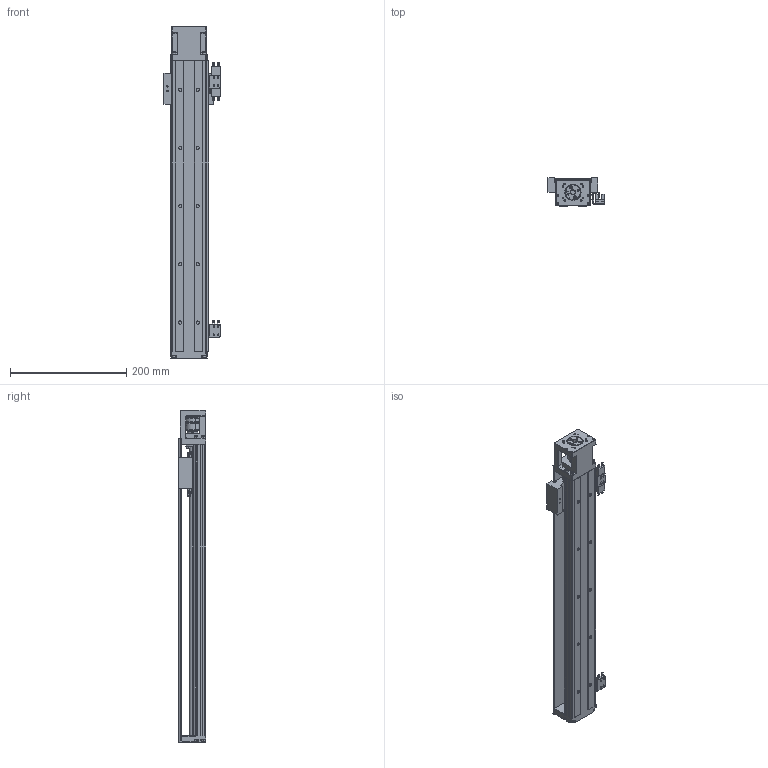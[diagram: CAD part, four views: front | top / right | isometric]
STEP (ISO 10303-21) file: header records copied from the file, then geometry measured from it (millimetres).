
FILE_DESCRIPTION (( 'STEP AP214' ), '1' );
FILE_NAME ('SFKK60-500A1-F0C.STEP', '2023-02-17T01:41:33', ( '微软用户' ), ( '微软中国' ), 'SwSTEP 2.0', 'SolidWorks 2018', '' );
FILE_SCHEMA (( 'AUTOMOTIVE_DESIGN' ));
Length unit declared in the file: millimetre
Products named in the file (12): SFD26x33-8-8_8; SFKK60-500A1-F0C; SFKK60-A1-C; 带盖挡光片：KK-60-S2-D1; 极限轨道与开关固定座组合_500; SFKK-60-CU_500; SX674嫖萇羲壽; hexagon socket countersunk head screws gb_GB_FASTENER_SCREWS_HSCHS M3X8-N; SFKK60-LR 憤癹寢耋_500; 开关固定座：KK-674S2-F; SFKK60-F0_500; 蚐郲
Assembly tree (17 placements, depth 3):
  SFKK60-500A1-F0C
    SFKK60-F0_500
    SFKK60-A1-C
    蚐郲
    极限轨道与开关固定座组合_500
      SFKK60-LR 憤癹寢耋_500
      开关固定座：KK-674S2-F  x2
    SX674嫖萇羲壽  x3
    带盖挡光片：KK-60-S2-D1
    SFKK-60-CU_500
    hexagon socket countersunk head screws gb_GB_FASTENER_SCREWS_HSCHS M3X8-N  x4
    SFD26x33-8-8_8
Bounding box: 96.4 x 48 x 570.6 mm (x, y, z)
Volume: 697475.4 mm3; surface area: 305260.4 mm2
Topology: 41 solids, 41 shells, 2187 faces, 5708 edges, 3618 vertices
Faces by surface type: plane 1037, cylinder 857, cone 192, torus 87, sphere 10, bspline 4
Entity records: 78325 total; most frequent: CARTESIAN_POINT 14166, DIRECTION 10827, ORIENTED_EDGE 10284, EDGE_CURVE 5142, AXIS2_PLACEMENT_3D 3896, VERTEX_POINT 3321, LINE 3035, VECTOR 3035
